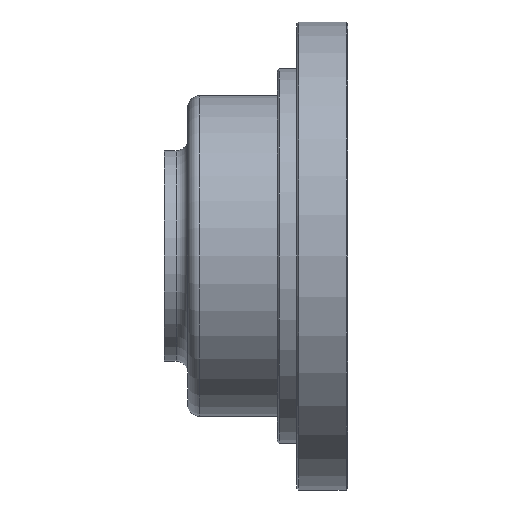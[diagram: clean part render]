
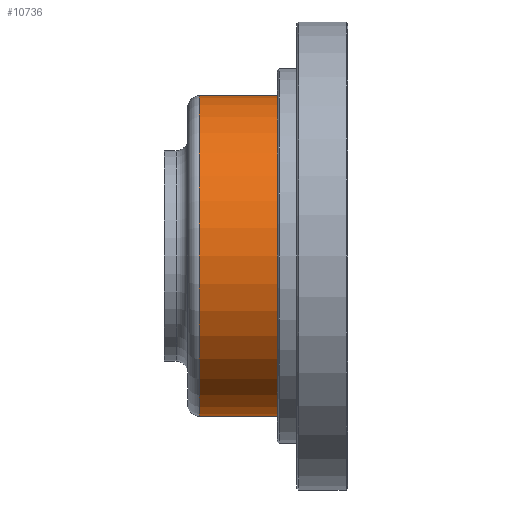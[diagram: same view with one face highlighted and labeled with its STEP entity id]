
A CAD part, left-side view. The second image highlights one B-rep face of the part: STEP entity #10736.
In plain terms, the highlighted cylindrical face has radius 20.55 mm (diameter 41.1 mm), a partial arc.
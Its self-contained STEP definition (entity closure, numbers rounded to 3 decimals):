
#61 = DIRECTION ( 'NONE',  ( 0., 0., 1. ) ) ;
#175 = CARTESIAN_POINT ( 'NONE',  ( 0., 23.5, -20.55 ) ) ;
#332 = CYLINDRICAL_SURFACE ( 'NONE', #5825, 20.55 ) ;
#835 = VERTEX_POINT ( 'NONE', #9646 ) ;
#1023 = ORIENTED_EDGE ( 'NONE', *, *, #3026, .F. ) ;
#1848 = CARTESIAN_POINT ( 'NONE',  ( 0., 0., 0. ) ) ;
#1934 = DIRECTION ( 'NONE',  ( 0., 1., 0. ) ) ;
#2005 = EDGE_CURVE ( 'NONE', #835, #6707, #4013, .T. ) ;
#2112 = VECTOR ( 'NONE', #3097, 1000. ) ;
#2772 = EDGE_CURVE ( 'NONE', #8989, #6707, #4003, .T. ) ;
#3026 = EDGE_CURVE ( 'NONE', #10107, #8989, #10626, .T. ) ;
#3097 = DIRECTION ( 'NONE',  ( 0., 1., 0. ) ) ;
#3126 = ORIENTED_EDGE ( 'NONE', *, *, #2772, .F. ) ;
#3830 = DIRECTION ( 'NONE',  ( 0., 1., 0. ) ) ;
#4003 = CIRCLE ( 'NONE', #11164, 20.55 ) ;
#4013 = LINE ( 'NONE', #4086, #11510 ) ;
#4086 = CARTESIAN_POINT ( 'NONE',  ( 0., 23.5, 20.55 ) ) ;
#4818 = EDGE_LOOP ( 'NONE', ( #1023, #10132, #8496, #3126 ) ) ;
#5004 = DIRECTION ( 'NONE',  ( 0., 1., 0. ) ) ;
#5417 = CARTESIAN_POINT ( 'NONE',  ( 0., 0., -20.55 ) ) ;
#5603 = CARTESIAN_POINT ( 'NONE',  ( 0., 23.5, 0. ) ) ;
#5825 = AXIS2_PLACEMENT_3D ( 'NONE', #5603, #1934, #11018 ) ;
#6707 = VERTEX_POINT ( 'NONE', #10570 ) ;
#8496 = ORIENTED_EDGE ( 'NONE', *, *, #2005, .T. ) ;
#8727 = CIRCLE ( 'NONE', #11817, 20.55 ) ;
#8989 = VERTEX_POINT ( 'NONE', #11818 ) ;
#9646 = CARTESIAN_POINT ( 'NONE',  ( 0., 0., 20.55 ) ) ;
#9918 = EDGE_CURVE ( 'NONE', #10107, #835, #8727, .T. ) ;
#10107 = VERTEX_POINT ( 'NONE', #5417 ) ;
#10116 = CARTESIAN_POINT ( 'NONE',  ( 0., 19., 0. ) ) ;
#10132 = ORIENTED_EDGE ( 'NONE', *, *, #9918, .T. ) ;
#10570 = CARTESIAN_POINT ( 'NONE',  ( 0., 19., 20.55 ) ) ;
#10626 = LINE ( 'NONE', #175, #2112 ) ;
#10735 = FACE_OUTER_BOUND ( 'NONE', #4818, .T. ) ;
#10736 = ADVANCED_FACE ( 'NONE', ( #10735 ), #332, .T. ) ;
#11018 = DIRECTION ( 'NONE',  ( 0., 0., 1. ) ) ;
#11147 = DIRECTION ( 'NONE',  ( 0., 0., 1. ) ) ;
#11164 = AXIS2_PLACEMENT_3D ( 'NONE', #10116, #3830, #61 ) ;
#11190 = DIRECTION ( 'NONE',  ( 0., 1., 0. ) ) ;
#11510 = VECTOR ( 'NONE', #5004, 1000. ) ;
#11817 = AXIS2_PLACEMENT_3D ( 'NONE', #1848, #11190, #11147 ) ;
#11818 = CARTESIAN_POINT ( 'NONE',  ( 0., 19., -20.55 ) ) ;
